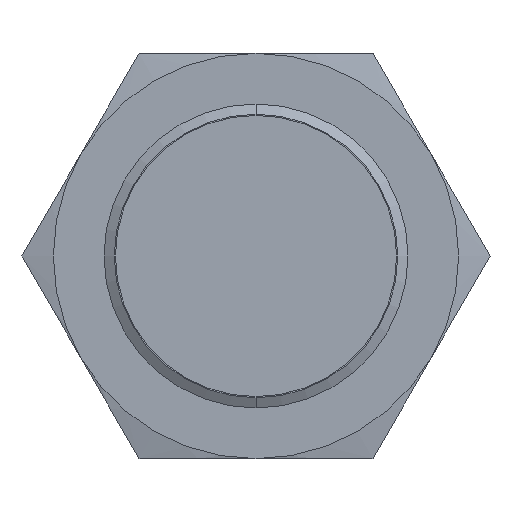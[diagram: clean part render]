
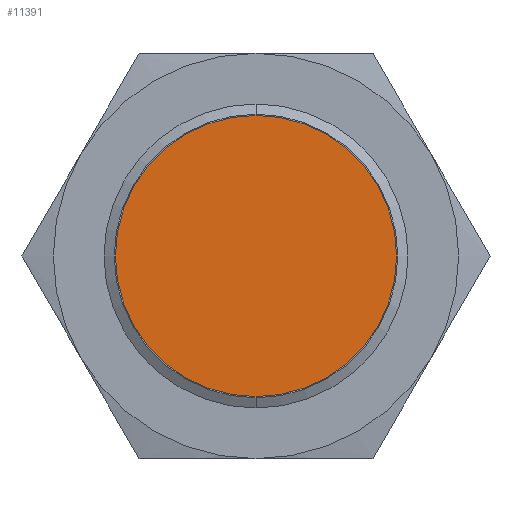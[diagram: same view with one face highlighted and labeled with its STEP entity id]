
A CAD part, left-side view. The second image highlights one B-rep face of the part: STEP entity #11391.
In plain terms, the highlighted planar face has unit normal (-1, 0, 0).
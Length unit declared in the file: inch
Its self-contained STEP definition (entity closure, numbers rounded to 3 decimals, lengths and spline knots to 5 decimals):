
#2658 = CARTESIAN_POINT ( 'NONE',  ( 0., 0., 0.3275 ) ) ;
#4604 = FACE_OUTER_BOUND ( 'NONE', #11330, .T. ) ;
#4605 = PLANE ( 'NONE',  #4606 ) ;
#4606 = AXIS2_PLACEMENT_3D ( 'NONE', #4607, #4608, #4609 ) ;
#4607 = CARTESIAN_POINT ( 'NONE',  ( 0., 0., 0. ) ) ;
#4608 = DIRECTION ( 'NONE',  ( 1., 0., 0. ) ) ;
#4609 = DIRECTION ( 'NONE',  ( 0., 0., -1. ) ) ;
#4992 = CIRCLE ( 'NONE', #4993, 0.3275 ) ;
#4993 = AXIS2_PLACEMENT_3D ( 'NONE', #4994, #4995, #4996 ) ;
#4994 = CARTESIAN_POINT ( 'NONE',  ( 0., 0., 0. ) ) ;
#4995 = DIRECTION ( 'NONE',  ( 1., 0., 0. ) ) ;
#4996 = DIRECTION ( 'NONE',  ( 0., 0., 1. ) ) ;
#8497 = VERTEX_POINT ( 'NONE', #2658 ) ;
#9050 = CIRCLE ( 'NONE', #9051, 0.3275 ) ;
#9051 = AXIS2_PLACEMENT_3D ( 'NONE', #9052, #9053, #9054 ) ;
#9052 = CARTESIAN_POINT ( 'NONE',  ( 0., 0., 0. ) ) ;
#9053 = DIRECTION ( 'NONE',  ( 1., 0., 0. ) ) ;
#9054 = DIRECTION ( 'NONE',  ( 0., 0., 1. ) ) ;
#9596 = CARTESIAN_POINT ( 'NONE',  ( 0., 0., -0.3275 ) ) ;
#10333 = ORIENTED_EDGE ( 'NONE', *, *, #13433, .F. ) ;
#10917 = ORIENTED_EDGE ( 'NONE', *, *, #11524, .F. ) ;
#11330 = EDGE_LOOP ( 'NONE', ( #10917, #10333 ) ) ;
#11391 = ADVANCED_FACE ( 'NONE', ( #4604 ), #4605, .F. ) ;
#11524 = EDGE_CURVE ( 'NONE', #8497, #14223, #4992, .T. ) ;
#13433 = EDGE_CURVE ( 'NONE', #14223, #8497, #9050, .T. ) ;
#14223 = VERTEX_POINT ( 'NONE', #9596 ) ;
